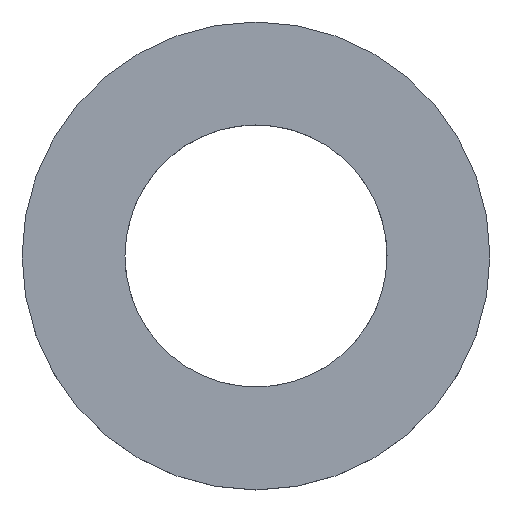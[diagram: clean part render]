
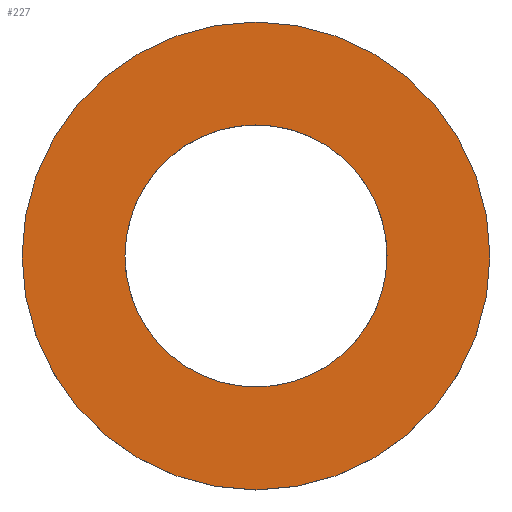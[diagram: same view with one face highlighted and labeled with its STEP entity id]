
A CAD part, top view. The second image highlights one B-rep face of the part: STEP entity #227.
In plain terms, the highlighted planar face has unit normal (0, 0, 1).
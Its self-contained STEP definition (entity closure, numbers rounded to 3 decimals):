
#42=CARTESIAN_POINT('Vertex',(7.5,0.,1.6)) ;
#56=CARTESIAN_POINT('Vertex',(-7.5,0.,1.6)) ;
#59=CARTESIAN_POINT('Axis2P3D Location',(0.,0.,1.6)) ;
#71=CARTESIAN_POINT('Axis2P3D Location',(0.,0.,1.6)) ;
#158=CARTESIAN_POINT('Axis2P3D Location',(0.,0.,1.6)) ;
#168=CARTESIAN_POINT('Control Point',(-4.2,0.,1.6)) ;
#169=CARTESIAN_POINT('Control Point',(-4.2,0.402,1.6)) ;
#170=CARTESIAN_POINT('Control Point',(-4.152,0.803,1.6)) ;
#171=CARTESIAN_POINT('Control Point',(-4.056,1.197,1.6)) ;
#172=CARTESIAN_POINT('Control Point',(-3.772,1.954,1.6)) ;
#173=CARTESIAN_POINT('Control Point',(-3.317,2.623,1.6)) ;
#174=CARTESIAN_POINT('Control Point',(-3.05,2.929,1.6)) ;
#175=CARTESIAN_POINT('Control Point',(-2.45,3.471,1.6)) ;
#176=CARTESIAN_POINT('Control Point',(-1.738,3.855,1.6)) ;
#177=CARTESIAN_POINT('Control Point',(-1.361,4.004,1.6)) ;
#178=CARTESIAN_POINT('Control Point',(-0.578,4.208,1.6)) ;
#179=CARTESIAN_POINT('Control Point',(0.231,4.223,1.6)) ;
#180=CARTESIAN_POINT('Control Point',(0.634,4.181,1.6)) ;
#181=CARTESIAN_POINT('Control Point',(1.423,4.003,1.6)) ;
#182=CARTESIAN_POINT('Control Point',(2.147,3.643,1.6)) ;
#183=CARTESIAN_POINT('Control Point',(2.487,3.421,1.6)) ;
#184=CARTESIAN_POINT('Control Point',(3.105,2.899,1.6)) ;
#185=CARTESIAN_POINT('Control Point',(3.583,2.247,1.6)) ;
#186=CARTESIAN_POINT('Control Point',(3.782,1.893,1.6)) ;
#187=CARTESIAN_POINT('Control Point',(4.024,1.306,1.6)) ;
#188=CARTESIAN_POINT('Control Point',(4.153,0.687,1.6)) ;
#189=CARTESIAN_POINT('Control Point',(4.184,0.459,1.6)) ;
#190=CARTESIAN_POINT('Control Point',(4.2,0.229,1.6)) ;
#191=CARTESIAN_POINT('Control Point',(4.2,0.,1.6)) ;
#192=CARTESIAN_POINT('Vertex',(-4.2,0.,1.6)) ;
#194=CARTESIAN_POINT('Vertex',(4.2,0.,1.6)) ;
#198=CARTESIAN_POINT('Control Point',(4.2,0.,1.6)) ;
#199=CARTESIAN_POINT('Control Point',(4.2,-0.402,1.6)) ;
#200=CARTESIAN_POINT('Control Point',(4.152,-0.803,1.6)) ;
#201=CARTESIAN_POINT('Control Point',(4.056,-1.197,1.6)) ;
#202=CARTESIAN_POINT('Control Point',(3.772,-1.954,1.6)) ;
#203=CARTESIAN_POINT('Control Point',(3.317,-2.623,1.6)) ;
#204=CARTESIAN_POINT('Control Point',(3.05,-2.929,1.6)) ;
#205=CARTESIAN_POINT('Control Point',(2.45,-3.471,1.6)) ;
#206=CARTESIAN_POINT('Control Point',(1.738,-3.855,1.6)) ;
#207=CARTESIAN_POINT('Control Point',(1.361,-4.004,1.6)) ;
#208=CARTESIAN_POINT('Control Point',(0.578,-4.208,1.6)) ;
#209=CARTESIAN_POINT('Control Point',(-0.231,-4.223,1.6)) ;
#210=CARTESIAN_POINT('Control Point',(-0.634,-4.181,1.6)) ;
#211=CARTESIAN_POINT('Control Point',(-1.423,-4.003,1.6)) ;
#212=CARTESIAN_POINT('Control Point',(-2.147,-3.643,1.6)) ;
#213=CARTESIAN_POINT('Control Point',(-2.487,-3.421,1.6)) ;
#214=CARTESIAN_POINT('Control Point',(-3.105,-2.899,1.6)) ;
#215=CARTESIAN_POINT('Control Point',(-3.583,-2.247,1.6)) ;
#216=CARTESIAN_POINT('Control Point',(-3.782,-1.893,1.6)) ;
#217=CARTESIAN_POINT('Control Point',(-4.024,-1.306,1.6)) ;
#218=CARTESIAN_POINT('Control Point',(-4.153,-0.687,1.6)) ;
#219=CARTESIAN_POINT('Control Point',(-4.184,-0.459,1.6)) ;
#220=CARTESIAN_POINT('Control Point',(-4.2,-0.229,1.6)) ;
#221=CARTESIAN_POINT('Control Point',(-4.2,0.,1.6)) ;
#60=DIRECTION('Axis2P3D Direction',(0.,0.,1.)) ;
#72=DIRECTION('Axis2P3D Direction',(0.,0.,1.)) ;
#159=DIRECTION('Axis2P3D Direction',(0.,-0.,1.)) ;
#160=DIRECTION('Axis2P3D XDirection',(1.,0.,0.)) ;
#61=AXIS2_PLACEMENT_3D('Circle Axis2P3D',#59,#60,$) ;
#73=AXIS2_PLACEMENT_3D('Circle Axis2P3D',#71,#72,$) ;
#161=AXIS2_PLACEMENT_3D('Plane Axis2P3D',#158,#159,#160) ;
#62=CIRCLE('generated circle',#61,7.5) ;
#74=CIRCLE('generated circle',#73,7.5) ;
#162=PLANE('',#161) ;
#226=FACE_BOUND('',#223,.T.) ;
#63=EDGE_CURVE('',#43,#57,#62,.T.) ;
#75=EDGE_CURVE('',#57,#43,#74,.T.) ;
#196=EDGE_CURVE('',#193,#195,#167,.T.) ;
#222=EDGE_CURVE('',#195,#193,#197,.T.) ;
#164=ORIENTED_EDGE('',*,*,#63,.T.) ;
#165=ORIENTED_EDGE('',*,*,#75,.T.) ;
#224=ORIENTED_EDGE('',*,*,#196,.T.) ;
#225=ORIENTED_EDGE('',*,*,#222,.T.) ;
#163=EDGE_LOOP('',(#164,#165)) ;
#223=EDGE_LOOP('',(#224,#225)) ;
#43=VERTEX_POINT('',#42) ;
#57=VERTEX_POINT('',#56) ;
#193=VERTEX_POINT('',#192) ;
#195=VERTEX_POINT('',#194) ;
#227=ADVANCED_FACE('Body.2',(#166,#226),#162,.T.) ;
#167=B_SPLINE_CURVE_WITH_KNOTS('',5,(#168,#169,#170,#171,#172,#173,#174,#175,#176,#177,#178,#179,#180,#181,#182,#183,#184,#185,#186,#187,#188,#189,#190,#191),.UNSPECIFIED.,.F.,.U.,(6,3,3,3,3,3,3,6),(0.,2.846,5.692,8.538,11.384,14.23,17.076,18.701),.UNSPECIFIED.) ;
#197=B_SPLINE_CURVE_WITH_KNOTS('',5,(#198,#199,#200,#201,#202,#203,#204,#205,#206,#207,#208,#209,#210,#211,#212,#213,#214,#215,#216,#217,#218,#219,#220,#221),.UNSPECIFIED.,.F.,.U.,(6,3,3,3,3,3,3,6),(0.,2.846,5.692,8.538,11.384,14.23,17.076,18.701),.UNSPECIFIED.) ;
#166=FACE_OUTER_BOUND('',#163,.T.) ;
